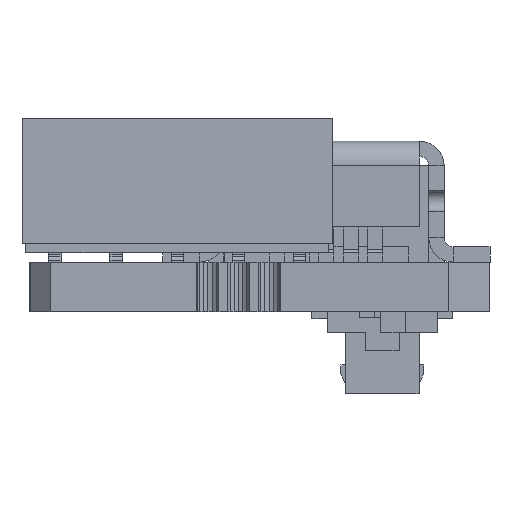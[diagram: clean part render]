
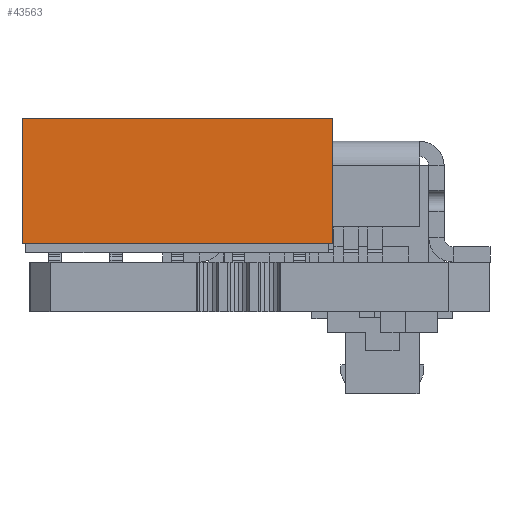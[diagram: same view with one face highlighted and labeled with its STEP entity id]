
A CAD part, front view. The second image highlights one B-rep face of the part: STEP entity #43563.
In plain terms, the highlighted planar face has unit normal (0, -1, 0).
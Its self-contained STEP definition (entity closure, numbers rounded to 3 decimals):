
#41892 = PLANE('',#41893);
#41893 = AXIS2_PLACEMENT_3D('',#41894,#41895,#41896);
#41894 = CARTESIAN_POINT('',(5.075,-2.1,0.));
#41895 = DIRECTION('',(0.,0.,1.));
#41896 = DIRECTION('',(1.,0.,0.));
#41948 = PLANE('',#41949);
#41949 = AXIS2_PLACEMENT_3D('',#41950,#41951,#41952);
#41950 = CARTESIAN_POINT('',(5.075,-2.1,4.1));
#41951 = DIRECTION('',(0.,0.,1.));
#41952 = DIRECTION('',(1.,0.,0.));
#42037 = VERTEX_POINT('',#42038);
#42038 = CARTESIAN_POINT('',(5.075,-2.1,0.));
#42052 = PLANE('',#42053);
#42053 = AXIS2_PLACEMENT_3D('',#42054,#42055,#42056);
#42054 = CARTESIAN_POINT('',(5.075,-2.1,0.));
#42055 = DIRECTION('',(1.,0.,0.));
#42056 = DIRECTION('',(0.,0.,-1.));
#42064 = EDGE_CURVE('',#42065,#42037,#42067,.T.);
#42065 = VERTEX_POINT('',#42066);
#42066 = CARTESIAN_POINT('',(-5.075,-2.1,0.));
#42067 = SURFACE_CURVE('',#42068,(#42072,#42079),.PCURVE_S1.);
#42068 = LINE('',#42069,#42070);
#42069 = CARTESIAN_POINT('',(-5.075,-2.1,0.));
#42070 = VECTOR('',#42071,1.);
#42071 = DIRECTION('',(1.,0.,0.));
#42072 = PCURVE('',#41892,#42073);
#42073 = DEFINITIONAL_REPRESENTATION('',(#42074),#42078);
#42074 = LINE('',#42075,#42076);
#42075 = CARTESIAN_POINT('',(-10.15,0.));
#42076 = VECTOR('',#42077,1.);
#42077 = DIRECTION('',(1.,0.));
#42078 = ( GEOMETRIC_REPRESENTATION_CONTEXT(2) 
PARAMETRIC_REPRESENTATION_CONTEXT() REPRESENTATION_CONTEXT('2D SPACE',''
  ) );
#42079 = PCURVE('',#42080,#42085);
#42080 = PLANE('',#42081);
#42081 = AXIS2_PLACEMENT_3D('',#42082,#42083,#42084);
#42082 = CARTESIAN_POINT('',(-5.075,-2.1,0.));
#42083 = DIRECTION('',(0.,-1.,0.));
#42084 = DIRECTION('',(0.,0.,-1.));
#42085 = DEFINITIONAL_REPRESENTATION('',(#42086),#42090);
#42086 = LINE('',#42087,#42088);
#42087 = CARTESIAN_POINT('',(0.,0.));
#42088 = VECTOR('',#42089,1.);
#42089 = DIRECTION('',(0.,1.));
#42090 = ( GEOMETRIC_REPRESENTATION_CONTEXT(2) 
PARAMETRIC_REPRESENTATION_CONTEXT() REPRESENTATION_CONTEXT('2D SPACE',''
  ) );
#42108 = PLANE('',#42109);
#42109 = AXIS2_PLACEMENT_3D('',#42110,#42111,#42112);
#42110 = CARTESIAN_POINT('',(-5.075,2.1,0.));
#42111 = DIRECTION('',(-1.,0.,0.));
#42112 = DIRECTION('',(0.,0.,1.));
#43475 = VERTEX_POINT('',#43476);
#43476 = CARTESIAN_POINT('',(-5.075,-2.1,4.1));
#43497 = EDGE_CURVE('',#43475,#43498,#43500,.T.);
#43498 = VERTEX_POINT('',#43499);
#43499 = CARTESIAN_POINT('',(5.075,-2.1,4.1));
#43500 = SURFACE_CURVE('',#43501,(#43505,#43512),.PCURVE_S1.);
#43501 = LINE('',#43502,#43503);
#43502 = CARTESIAN_POINT('',(-5.075,-2.1,4.1));
#43503 = VECTOR('',#43504,1.);
#43504 = DIRECTION('',(1.,0.,0.));
#43505 = PCURVE('',#41948,#43506);
#43506 = DEFINITIONAL_REPRESENTATION('',(#43507),#43511);
#43507 = LINE('',#43508,#43509);
#43508 = CARTESIAN_POINT('',(-10.15,0.));
#43509 = VECTOR('',#43510,1.);
#43510 = DIRECTION('',(1.,0.));
#43511 = ( GEOMETRIC_REPRESENTATION_CONTEXT(2) 
PARAMETRIC_REPRESENTATION_CONTEXT() REPRESENTATION_CONTEXT('2D SPACE',''
  ) );
#43512 = PCURVE('',#42080,#43513);
#43513 = DEFINITIONAL_REPRESENTATION('',(#43514),#43518);
#43514 = LINE('',#43515,#43516);
#43515 = CARTESIAN_POINT('',(-4.1,0.));
#43516 = VECTOR('',#43517,1.);
#43517 = DIRECTION('',(0.,1.));
#43518 = ( GEOMETRIC_REPRESENTATION_CONTEXT(2) 
PARAMETRIC_REPRESENTATION_CONTEXT() REPRESENTATION_CONTEXT('2D SPACE',''
  ) );
#43563 = ADVANCED_FACE('',(#43564),#42080,.T.);
#43564 = FACE_BOUND('',#43565,.T.);
#43565 = EDGE_LOOP('',(#43566,#43567,#43588,#43589));
#43566 = ORIENTED_EDGE('',*,*,#43497,.F.);
#43567 = ORIENTED_EDGE('',*,*,#43568,.F.);
#43568 = EDGE_CURVE('',#42065,#43475,#43569,.T.);
#43569 = SURFACE_CURVE('',#43570,(#43574,#43581),.PCURVE_S1.);
#43570 = LINE('',#43571,#43572);
#43571 = CARTESIAN_POINT('',(-5.075,-2.1,0.));
#43572 = VECTOR('',#43573,1.);
#43573 = DIRECTION('',(0.,0.,1.));
#43574 = PCURVE('',#42080,#43575);
#43575 = DEFINITIONAL_REPRESENTATION('',(#43576),#43580);
#43576 = LINE('',#43577,#43578);
#43577 = CARTESIAN_POINT('',(0.,0.));
#43578 = VECTOR('',#43579,1.);
#43579 = DIRECTION('',(-1.,0.));
#43580 = ( GEOMETRIC_REPRESENTATION_CONTEXT(2) 
PARAMETRIC_REPRESENTATION_CONTEXT() REPRESENTATION_CONTEXT('2D SPACE',''
  ) );
#43581 = PCURVE('',#42108,#43582);
#43582 = DEFINITIONAL_REPRESENTATION('',(#43583),#43587);
#43583 = LINE('',#43584,#43585);
#43584 = CARTESIAN_POINT('',(0.,-4.2));
#43585 = VECTOR('',#43586,1.);
#43586 = DIRECTION('',(1.,0.));
#43587 = ( GEOMETRIC_REPRESENTATION_CONTEXT(2) 
PARAMETRIC_REPRESENTATION_CONTEXT() REPRESENTATION_CONTEXT('2D SPACE',''
  ) );
#43588 = ORIENTED_EDGE('',*,*,#42064,.T.);
#43589 = ORIENTED_EDGE('',*,*,#43590,.T.);
#43590 = EDGE_CURVE('',#42037,#43498,#43591,.T.);
#43591 = SURFACE_CURVE('',#43592,(#43596,#43603),.PCURVE_S1.);
#43592 = LINE('',#43593,#43594);
#43593 = CARTESIAN_POINT('',(5.075,-2.1,0.));
#43594 = VECTOR('',#43595,1.);
#43595 = DIRECTION('',(0.,0.,1.));
#43596 = PCURVE('',#42080,#43597);
#43597 = DEFINITIONAL_REPRESENTATION('',(#43598),#43602);
#43598 = LINE('',#43599,#43600);
#43599 = CARTESIAN_POINT('',(0.,10.15));
#43600 = VECTOR('',#43601,1.);
#43601 = DIRECTION('',(-1.,0.));
#43602 = ( GEOMETRIC_REPRESENTATION_CONTEXT(2) 
PARAMETRIC_REPRESENTATION_CONTEXT() REPRESENTATION_CONTEXT('2D SPACE',''
  ) );
#43603 = PCURVE('',#42052,#43604);
#43604 = DEFINITIONAL_REPRESENTATION('',(#43605),#43609);
#43605 = LINE('',#43606,#43607);
#43606 = CARTESIAN_POINT('',(0.,0.));
#43607 = VECTOR('',#43608,1.);
#43608 = DIRECTION('',(-1.,0.));
#43609 = ( GEOMETRIC_REPRESENTATION_CONTEXT(2) 
PARAMETRIC_REPRESENTATION_CONTEXT() REPRESENTATION_CONTEXT('2D SPACE',''
  ) );
